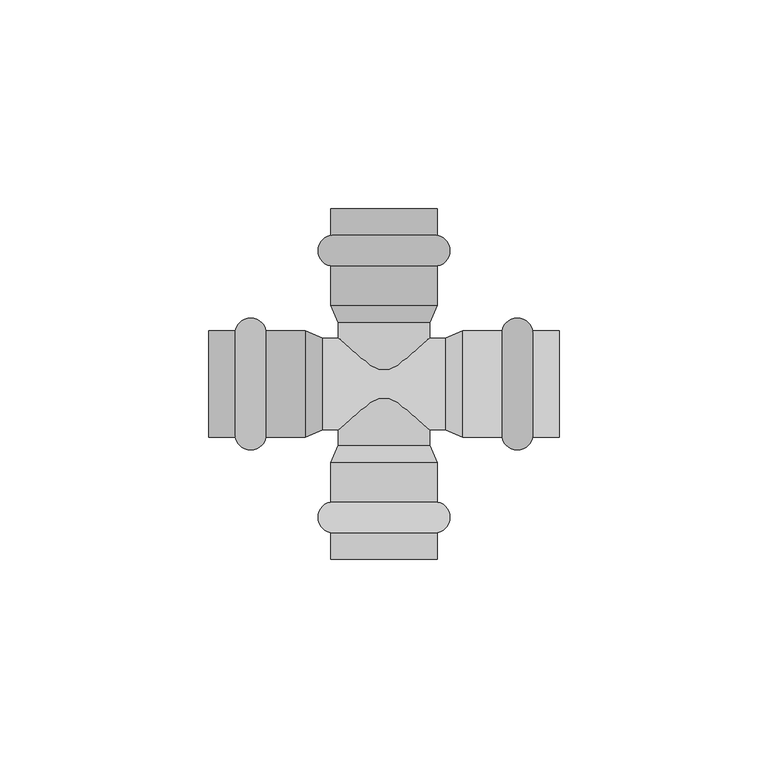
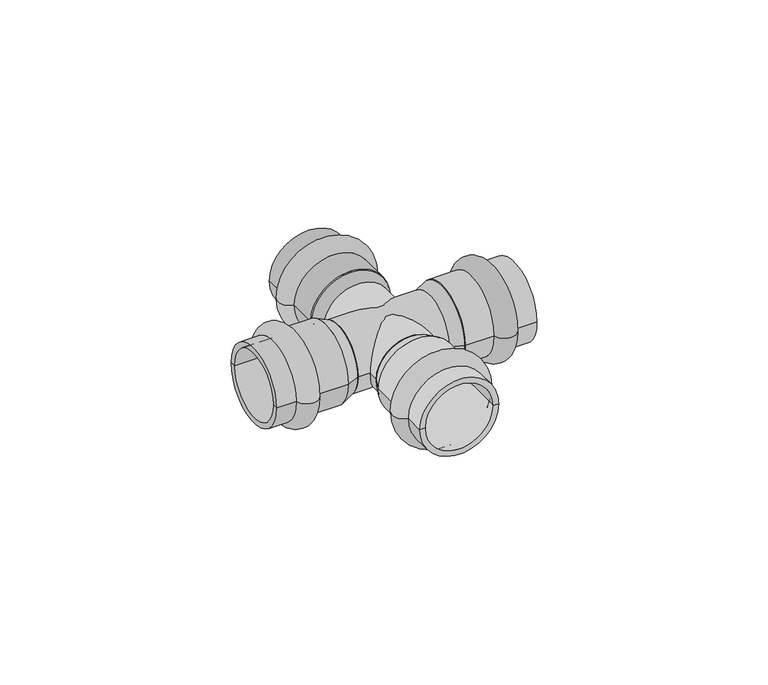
"""IFC4 building model written with IfcOpenShell, lengths in millimetres: pipe fitting geometry, VALTEC_VTi.941.I_Крестовина нержавеющая сталь : VTi.941.I."""

from ifc_helpers import new_model, si_unit, point, frame, origin, origin_2d, place, context, project, spatial, polyline, circle_curve, ellipse_curve, trimmed, segment, composite_curve, outline, extrude, source, transform, mapped, element, save
from ifc_brep_helpers import plane_surface, cylinder_surface, revolved_surface, advanced_brep


def pipe_fitting_8f5c6a91(model_context):
    return source(origin(), model_context, "Body", "SolidModel", [
        advanced_brep(
        [(12.8, -35.6242346, 0.0), (-12.8, -35.6242346, 0.0), (-12.8, -28.2757654, 0.0), (12.8, -28.2757654, 0.0), (12.8, -42.0, 0.0), (-12.8, -42.0, 0.0), (11.0, -42.0, 0.0), (-11.0, -42.0, 0.0), (11.0, -18.9, 0.0), (-11.0, -18.9, 0.0), (12.8, -18.9, 0.0), (-12.8, -18.9, 0.0)],
        [
            (0, 1, circle_curve(frame((0.0, -35.6242346, 0.0), z_axis=(0.0, 1.0, 0.0), x_axis=(-1.0, 0.0, 0.0)), 12.8)),
            (1, 2, circle_curve(frame((-12.05, -31.95, 0.0), z_axis=(0.0, 0.0, -1.0), x_axis=(0.0, 1.0, 0.0)), 3.75)),
            (2, 3, circle_curve(frame((0.0, -28.2757654, 0.0), z_axis=(0.0, -1.0, 0.0), x_axis=(-1.0, 0.0, 0.0)), 12.8)),
            (3, 0, circle_curve(frame((12.05, -31.95, 0.0), z_axis=(0.0, 0.0, -1.0), x_axis=(0.0, 1.0, 0.0)), 3.75)),
            (1, 0, circle_curve(frame((0.0, -35.6242346, 0.0), z_axis=(0.0, 1.0, 0.0), x_axis=(-1.0, 0.0, 0.0)), 12.8)),
            (3, 2, circle_curve(frame((0.0, -28.2757654, 0.0), z_axis=(0.0, -1.0, 0.0), x_axis=(-1.0, 0.0, 0.0)), 12.8)),
            (4, 5, circle_curve(frame((0.0, -42.0, 0.0), z_axis=(0.0, 1.0, 0.0), x_axis=(-1.0, 0.0, 0.0)), 12.8)),
            (5, 1),
            (0, 4),
            (5, 4, circle_curve(frame((0.0, -42.0, 0.0), z_axis=(0.0, 1.0, 0.0), x_axis=(-1.0, 0.0, 0.0)), 12.8)),
            (6, 7, circle_curve(frame((0.0, -42.0, 0.0), z_axis=(0.0, 1.0, 0.0), x_axis=(-1.0, 0.0, 0.0)), 11.0)),
            (7, 5),
            (4, 6),
            (7, 6, circle_curve(frame((0.0, -42.0, 0.0), z_axis=(0.0, 1.0, 0.0), x_axis=(-1.0, 0.0, 0.0)), 11.0)),
            (8, 9, circle_curve(frame((0.0, -18.9, 0.0), z_axis=(0.0, 1.0, 0.0), x_axis=(-1.0, 0.0, 0.0)), 11.0)),
            (9, 7),
            (6, 8),
            (9, 8, circle_curve(frame((0.0, -18.9, 0.0), z_axis=(0.0, 1.0, 0.0), x_axis=(-1.0, 0.0, 0.0)), 11.0)),
            (10, 11, circle_curve(frame((0.0, -18.9, 0.0), z_axis=(0.0, 1.0, 0.0), x_axis=(-1.0, 0.0, 0.0)), 12.8)),
            (11, 9),
            (8, 10),
            (11, 10, circle_curve(frame((0.0, -18.9, 0.0), z_axis=(0.0, 1.0, 0.0), x_axis=(-1.0, 0.0, 0.0)), 12.8)),
            (2, 11),
            (10, 3),
        ],
        [
            revolved_surface(trimmed(ellipse_curve(frame((-12.05, -31.95, 0.0), z_axis=(0.0, 0.0, 1.0), x_axis=(0.0, 1.0, 0.0)), 3.75, 3.75), [point((-12.8, -28.2757654, 0.0))], [point((-12.8, -35.6242346, 0.0))], True, "CARTESIAN"), (0.0, -45.5364426, 0.0), (0.0, -1.0, 0.0)),
            cylinder_surface(frame((0.0, -45.5364426, 0.0), z_axis=(0.0, -1.0, 0.0), x_axis=(-1.0, 0.0, 0.0)), 12.8),
            plane_surface(frame((0.0, -42.0, 0.0), z_axis=(0.0, -1.0, 0.0), x_axis=(-1.0, 0.0, 0.0))),
            revolved_surface(polyline([(-11.0, -42.0, 0.0), (-11.0, -18.9, 0.0)]), (0.0, -45.5364426, 0.0), (0.0, -1.0, 0.0)),
            plane_surface(frame((0.0, -18.9, 0.0), z_axis=(0.0, 1.0, 0.0), x_axis=(-1.0, 0.0, 0.0))),
        ],
        [
            (0, [[1, 2, 3, 4]]),
            (0, [[5, -4, 6, -2]]),
            (1, [[7, 8, -1, 9]]),
            (1, [[10, -9, -5, -8]]),
            (2, [[11, 12, -7, 13]]),
            (2, [[14, -13, -10, -12]]),
            (3, [[15, 16, -11, 17]]),
            (3, [[18, -17, -14, -16]]),
            (4, [[19, 20, -15, 21]]),
            (4, [[22, -21, -18, -20]]),
            (1, [[-3, 23, -19, 24]]),
            (1, [[-6, -24, -22, -23]]),
        ],
    ),
        advanced_brep(
        [(35.6242346, 12.8, 0.0), (35.6242346, -12.8, 0.0), (28.2757654, -12.8, 0.0), (28.2757654, 12.8, 0.0), (42.0, 12.8, 0.0), (42.0, -12.8, 0.0), (42.0, 11.0, 0.0), (42.0, -11.0, 0.0), (18.9, 11.0, 0.0), (18.9, -11.0, 0.0), (18.9, 12.8, 0.0), (18.9, -12.8, 0.0)],
        [
            (0, 1, circle_curve(frame((35.6242346, 0.0, 0.0), z_axis=(-1.0, 0.0, 0.0), x_axis=(0.0, -1.0, 0.0)), 12.8)),
            (1, 2, circle_curve(frame((31.95, -12.05, 0.0), z_axis=(0.0, 0.0, -1.0), x_axis=(-1.0, 0.0, 0.0)), 3.75)),
            (2, 3, circle_curve(frame((28.2757654, 0.0, 0.0), z_axis=(1.0, 0.0, 0.0), x_axis=(0.0, -1.0, 0.0)), 12.8)),
            (3, 0, circle_curve(frame((31.95, 12.05, 0.0), z_axis=(0.0, 0.0, -1.0), x_axis=(-1.0, 0.0, 0.0)), 3.75)),
            (1, 0, circle_curve(frame((35.6242346, 0.0, 0.0), z_axis=(-1.0, 0.0, 0.0), x_axis=(0.0, -1.0, 0.0)), 12.8)),
            (3, 2, circle_curve(frame((28.2757654, 0.0, 0.0), z_axis=(1.0, 0.0, 0.0), x_axis=(0.0, -1.0, 0.0)), 12.8)),
            (4, 5, circle_curve(frame((42.0, 0.0, 0.0), z_axis=(-1.0, 0.0, 0.0), x_axis=(0.0, -1.0, 0.0)), 12.8)),
            (5, 1),
            (0, 4),
            (5, 4, circle_curve(frame((42.0, 0.0, 0.0), z_axis=(-1.0, 0.0, 0.0), x_axis=(0.0, -1.0, 0.0)), 12.8)),
            (6, 7, circle_curve(frame((42.0, 0.0, 0.0), z_axis=(-1.0, 0.0, 0.0), x_axis=(0.0, -1.0, 0.0)), 11.0)),
            (7, 5),
            (4, 6),
            (7, 6, circle_curve(frame((42.0, 0.0, 0.0), z_axis=(-1.0, 0.0, 0.0), x_axis=(0.0, -1.0, 0.0)), 11.0)),
            (8, 9, circle_curve(frame((18.9, 0.0, 0.0), z_axis=(-1.0, 0.0, 0.0), x_axis=(0.0, -1.0, 0.0)), 11.0)),
            (9, 7),
            (6, 8),
            (9, 8, circle_curve(frame((18.9, 0.0, 0.0), z_axis=(-1.0, 0.0, 0.0), x_axis=(0.0, -1.0, 0.0)), 11.0)),
            (10, 11, circle_curve(frame((18.9, 0.0, 0.0), z_axis=(-1.0, 0.0, 0.0), x_axis=(0.0, -1.0, 0.0)), 12.8)),
            (11, 9),
            (8, 10),
            (11, 10, circle_curve(frame((18.9, 0.0, 0.0), z_axis=(-1.0, 0.0, 0.0), x_axis=(0.0, -1.0, 0.0)), 12.8)),
            (2, 11),
            (10, 3),
        ],
        [
            revolved_surface(trimmed(ellipse_curve(frame((31.95, -12.05, 0.0), z_axis=(0.0, 0.0, 1.0), x_axis=(-1.0, 0.0, 0.0)), 3.75, 3.75), [point((28.2757654, -12.8, 0.0))], [point((35.6242346, -12.8, 0.0))], True, "CARTESIAN"), (45.5364426, 0.0, 0.0), (1.0, 0.0, 0.0)),
            cylinder_surface(frame((45.5364426, 0.0, 0.0), z_axis=(1.0, 0.0, 0.0), x_axis=(0.0, -1.0, 0.0)), 12.8),
            plane_surface(frame((42.0, 0.0, 0.0), z_axis=(1.0, 0.0, 0.0), x_axis=(0.0, -1.0, 0.0))),
            revolved_surface(polyline([(42.0, -11.0, 0.0), (18.9, -11.0, 0.0)]), (45.5364426, 0.0, 0.0), (1.0, 0.0, 0.0)),
            plane_surface(frame((18.9, 0.0, 0.0), z_axis=(-1.0, 0.0, 0.0), x_axis=(0.0, -1.0, 0.0))),
        ],
        [
            (0, [[1, 2, 3, 4]]),
            (0, [[5, -4, 6, -2]]),
            (1, [[7, 8, -1, 9]]),
            (1, [[10, -9, -5, -8]]),
            (2, [[11, 12, -7, 13]]),
            (2, [[14, -13, -10, -12]]),
            (3, [[15, 16, -11, 17]]),
            (3, [[18, -17, -14, -16]]),
            (4, [[19, 20, -15, 21]]),
            (4, [[22, -21, -18, -20]]),
            (1, [[-3, 23, -19, 24]]),
            (1, [[-6, -24, -22, -23]]),
        ],
    ),
        advanced_brep(
        [(-35.6242346, -12.8, 0.0), (-35.6242346, 12.8, 0.0), (-28.2757654, 12.8, 0.0), (-28.2757654, -12.8, 0.0), (-42.0, -12.8, 0.0), (-42.0, 12.8, 0.0), (-42.0, -11.0, 0.0), (-42.0, 11.0, 0.0), (-18.9, -11.0, 0.0), (-18.9, 11.0, 0.0), (-18.9, -12.8, 0.0), (-18.9, 12.8, 0.0)],
        [
            (0, 1, circle_curve(frame((-35.6242346, 0.0, 0.0), z_axis=(1.0, 0.0, 0.0), x_axis=(0.0, 1.0, 0.0)), 12.8)),
            (1, 2, circle_curve(frame((-31.95, 12.05, 0.0), z_axis=(0.0, 0.0, -1.0), x_axis=(1.0, 0.0, 0.0)), 3.75)),
            (2, 3, circle_curve(frame((-28.2757654, 0.0, 0.0), z_axis=(-1.0, 0.0, 0.0), x_axis=(0.0, 1.0, 0.0)), 12.8)),
            (3, 0, circle_curve(frame((-31.95, -12.05, 0.0), z_axis=(0.0, 0.0, -1.0), x_axis=(1.0, 0.0, 0.0)), 3.75)),
            (1, 0, circle_curve(frame((-35.6242346, 0.0, 0.0), z_axis=(1.0, 0.0, 0.0), x_axis=(0.0, 1.0, 0.0)), 12.8)),
            (3, 2, circle_curve(frame((-28.2757654, 0.0, 0.0), z_axis=(-1.0, 0.0, 0.0), x_axis=(0.0, 1.0, 0.0)), 12.8)),
            (4, 5, circle_curve(frame((-42.0, 0.0, 0.0), z_axis=(1.0, 0.0, 0.0), x_axis=(0.0, 1.0, 0.0)), 12.8)),
            (5, 1),
            (0, 4),
            (5, 4, circle_curve(frame((-42.0, 0.0, 0.0), z_axis=(1.0, 0.0, 0.0), x_axis=(0.0, 1.0, 0.0)), 12.8)),
            (6, 7, circle_curve(frame((-42.0, 0.0, 0.0), z_axis=(1.0, 0.0, 0.0), x_axis=(0.0, 1.0, 0.0)), 11.0)),
            (7, 5),
            (4, 6),
            (7, 6, circle_curve(frame((-42.0, 0.0, 0.0), z_axis=(1.0, 0.0, 0.0), x_axis=(0.0, 1.0, 0.0)), 11.0)),
            (8, 9, circle_curve(frame((-18.9, 0.0, 0.0), z_axis=(1.0, 0.0, 0.0), x_axis=(0.0, 1.0, 0.0)), 11.0)),
            (9, 7),
            (6, 8),
            (9, 8, circle_curve(frame((-18.9, 0.0, 0.0), z_axis=(1.0, 0.0, 0.0), x_axis=(0.0, 1.0, 0.0)), 11.0)),
            (10, 11, circle_curve(frame((-18.9, 0.0, 0.0), z_axis=(1.0, 0.0, 0.0), x_axis=(0.0, 1.0, 0.0)), 12.8)),
            (11, 9),
            (8, 10),
            (11, 10, circle_curve(frame((-18.9, 0.0, 0.0), z_axis=(1.0, 0.0, 0.0), x_axis=(0.0, 1.0, 0.0)), 12.8)),
            (2, 11),
            (10, 3),
        ],
        [
            revolved_surface(trimmed(ellipse_curve(frame((-31.95, 12.05, 0.0), z_axis=(0.0, 0.0, 1.0), x_axis=(1.0, 0.0, 0.0)), 3.75, 3.75), [point((-28.2757654, 12.8, 0.0))], [point((-35.6242346, 12.8, 0.0))], True, "CARTESIAN"), (-45.5364426, 0.0, 0.0), (-1.0, 0.0, 0.0)),
            cylinder_surface(frame((-45.5364426, 0.0, 0.0), z_axis=(-1.0, 0.0, 0.0), x_axis=(0.0, 1.0, 0.0)), 12.8),
            plane_surface(frame((-42.0, 0.0, 0.0), z_axis=(-1.0, 0.0, 0.0), x_axis=(0.0, 1.0, 0.0))),
            revolved_surface(polyline([(-42.0, 11.0, 0.0), (-18.9, 11.0, 0.0)]), (-45.5364426, 0.0, 0.0), (-1.0, 0.0, 0.0)),
            plane_surface(frame((-18.9, 0.0, 0.0), z_axis=(1.0, 0.0, 0.0), x_axis=(0.0, 1.0, 0.0))),
        ],
        [
            (0, [[1, 2, 3, 4]]),
            (0, [[5, -4, 6, -2]]),
            (1, [[7, 8, -1, 9]]),
            (1, [[10, -9, -5, -8]]),
            (2, [[11, 12, -7, 13]]),
            (2, [[14, -13, -10, -12]]),
            (3, [[15, 16, -11, 17]]),
            (3, [[18, -17, -14, -16]]),
            (4, [[19, 20, -15, 21]]),
            (4, [[22, -21, -18, -20]]),
            (1, [[-3, 23, -19, 24]]),
            (1, [[-6, -24, -22, -23]]),
        ],
    ),
        advanced_brep(
        [(-12.8, 35.6242346, 0.0), (12.8, 35.6242346, 0.0), (12.8, 28.2757654, 0.0), (-12.8, 28.2757654, 0.0), (-12.8, 42.0, 0.0), (12.8, 42.0, 0.0), (-11.0, 42.0, 0.0), (11.0, 42.0, 0.0), (-11.0, 18.9, 0.0), (11.0, 18.9, 0.0), (-12.8, 18.9, 0.0), (12.8, 18.9, 0.0)],
        [
            (0, 1, circle_curve(frame((0.0, 35.6242346, 0.0), z_axis=(0.0, -1.0, 0.0), x_axis=(1.0, 0.0, 0.0)), 12.8)),
            (1, 2, circle_curve(frame((12.05, 31.95, 0.0), z_axis=(0.0, 0.0, -1.0), x_axis=(0.0, -1.0, 0.0)), 3.75)),
            (2, 3, circle_curve(frame((0.0, 28.2757654, 0.0), z_axis=(0.0, 1.0, 0.0), x_axis=(1.0, 0.0, 0.0)), 12.8)),
            (3, 0, circle_curve(frame((-12.05, 31.95, 0.0), z_axis=(0.0, 0.0, -1.0), x_axis=(0.0, -1.0, 0.0)), 3.75)),
            (1, 0, circle_curve(frame((0.0, 35.6242346, 0.0), z_axis=(0.0, -1.0, 0.0), x_axis=(1.0, 0.0, 0.0)), 12.8)),
            (3, 2, circle_curve(frame((0.0, 28.2757654, 0.0), z_axis=(0.0, 1.0, 0.0), x_axis=(1.0, 0.0, 0.0)), 12.8)),
            (4, 5, circle_curve(frame((0.0, 42.0, 0.0), z_axis=(0.0, -1.0, 0.0), x_axis=(1.0, 0.0, 0.0)), 12.8)),
            (5, 1),
            (0, 4),
            (5, 4, circle_curve(frame((0.0, 42.0, 0.0), z_axis=(0.0, -1.0, 0.0), x_axis=(1.0, 0.0, 0.0)), 12.8)),
            (6, 7, circle_curve(frame((0.0, 42.0, 0.0), z_axis=(0.0, -1.0, 0.0), x_axis=(1.0, 0.0, 0.0)), 11.0)),
            (7, 5),
            (4, 6),
            (7, 6, circle_curve(frame((0.0, 42.0, 0.0), z_axis=(0.0, -1.0, 0.0), x_axis=(1.0, 0.0, 0.0)), 11.0)),
            (8, 9, circle_curve(frame((0.0, 18.9, 0.0), z_axis=(0.0, -1.0, 0.0), x_axis=(1.0, 0.0, 0.0)), 11.0)),
            (9, 7),
            (6, 8),
            (9, 8, circle_curve(frame((0.0, 18.9, 0.0), z_axis=(0.0, -1.0, 0.0), x_axis=(1.0, 0.0, 0.0)), 11.0)),
            (10, 11, circle_curve(frame((0.0, 18.9, 0.0), z_axis=(0.0, -1.0, 0.0), x_axis=(1.0, 0.0, 0.0)), 12.8)),
            (11, 9),
            (8, 10),
            (11, 10, circle_curve(frame((0.0, 18.9, 0.0), z_axis=(0.0, -1.0, 0.0), x_axis=(1.0, 0.0, 0.0)), 12.8)),
            (2, 11),
            (10, 3),
        ],
        [
            revolved_surface(trimmed(ellipse_curve(frame((12.05, 31.95, 0.0), z_axis=(0.0, 0.0, 1.0), x_axis=(0.0, -1.0, 0.0)), 3.75, 3.75), [point((12.8, 28.2757654, 0.0))], [point((12.8, 35.6242346, 0.0))], True, "CARTESIAN"), (0.0, 45.5364426, 0.0), (0.0, 1.0, 0.0)),
            cylinder_surface(frame((0.0, 45.5364426, 0.0), z_axis=(0.0, 1.0, 0.0), x_axis=(1.0, 0.0, 0.0)), 12.8),
            plane_surface(frame((0.0, 42.0, 0.0), z_axis=(0.0, 1.0, 0.0), x_axis=(1.0, 0.0, 0.0))),
            revolved_surface(polyline([(11.0, 42.0, 0.0), (11.0, 18.9, 0.0)]), (0.0, 45.5364426, 0.0), (0.0, 1.0, 0.0)),
            plane_surface(frame((0.0, 18.9, 0.0), z_axis=(0.0, -1.0, 0.0), x_axis=(1.0, 0.0, 0.0))),
        ],
        [
            (0, [[1, 2, 3, 4]]),
            (0, [[5, -4, 6, -2]]),
            (1, [[7, 8, -1, 9]]),
            (1, [[10, -9, -5, -8]]),
            (2, [[11, 12, -7, 13]]),
            (2, [[14, -13, -10, -12]]),
            (3, [[15, 16, -11, 17]]),
            (3, [[18, -17, -14, -16]]),
            (4, [[19, 20, -15, 21]]),
            (4, [[22, -21, -18, -20]]),
            (1, [[-3, 23, -19, 24]]),
            (1, [[-6, -24, -22, -23]]),
        ],
    ),
        extrude(outline(composite_curve([segment(trimmed(circle_curve(origin_2d(), 11.0), [point((-11.0, 0.0))], [point((11.0, 0.0))], False, "CARTESIAN"), True, "CONTINUOUS"), segment(trimmed(circle_curve(origin_2d(), 11.0), [point((11.0, 0.0))], [point((-11.0, 0.0))], False, "CARTESIAN"), True, "CONTINUOUS")], self_intersect=False)), frame((-14.7, 0.0, 0.0), z_axis=(1.0, 0.0, 0.0), x_axis=(0.0, 1.0, 0.0)), (0.0, 0.0, 1.0), 29.4),
        extrude(outline(composite_curve([segment(trimmed(circle_curve(origin_2d(), 11.0), [point((0.0, -11.0))], [point((0.0, 11.0))], False, "CARTESIAN"), True, "CONTINUOUS"), segment(trimmed(circle_curve(origin_2d(), 11.0), [point((0.0, 11.0))], [point((0.0, -11.0))], False, "CARTESIAN"), True, "CONTINUOUS")], self_intersect=False)), frame((0.0, -14.7, 0.0), z_axis=(0.0, 1.0, 0.0), x_axis=(0.0, 0.0, 1.0)), (0.0, 0.0, 1.0), 29.4),
        advanced_brep(
        [(-18.9, -12.8, 0.0), (-18.9, 12.8, 0.0), (-14.7, -11.0, 0.0), (-14.7, 11.0, 0.0)],
        [
            (0, 1, circle_curve(frame((-18.9, 0.0, 0.0), z_axis=(-1.0, 0.0, 0.0), x_axis=(0.0, -1.0, 0.0)), 12.8)),
            (1, 0, circle_curve(frame((-18.9, 0.0, 0.0), z_axis=(-1.0, 0.0, 0.0), x_axis=(0.0, 1.0, 0.0)), 12.8)),
            (2, 3, circle_curve(frame((-14.7, 0.0, 0.0), z_axis=(1.0, 0.0, 0.0), x_axis=(0.0, 1.0, 0.0)), 11.0)),
            (3, 2, circle_curve(frame((-14.7, 0.0, 0.0), z_axis=(1.0, 0.0, 0.0), x_axis=(0.0, -1.0, 0.0)), 11.0)),
            (2, 0),
            (1, 3),
        ],
        [
            plane_surface(frame((-18.9, 0.0, 0.0), z_axis=(-1.0, 0.0, 0.0), x_axis=(0.0, 0.0, 1.0))),
            plane_surface(frame((-14.7, 0.0, 0.0), z_axis=(1.0, 0.0, 0.0), x_axis=(0.0, 0.0, 1.0))),
            revolved_surface(polyline([(-14.700000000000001, -11.000000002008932, 0.0), (-18.9, -12.8, 0.0)]), (10.9666667, 0.0, 0.0), (-1.0, 0.0, 0.0)),
            revolved_surface(polyline([(-14.700000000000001, 11.000000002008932, 0.0), (-18.9, 12.8, 0.0)]), (10.9666667, 0.0, 0.0), (-1.0, 0.0, 0.0)),
        ],
        [
            (0, [[1, 2]]),
            (1, [[3, 4]]),
            (2, [[-3, 5, -2, 6]]),
            (3, [[-4, -6, -1, -5]]),
        ],
    ),
        advanced_brep(
        [(18.9, -12.8, 0.0), (18.9, 12.8, 0.0), (14.7, -11.0, 0.0), (14.7, 11.0, 0.0)],
        [
            (0, 1, circle_curve(frame((18.9, 0.0, 0.0), z_axis=(1.0, 0.0, 0.0), x_axis=(0.0, -1.0, 0.0)), 12.8)),
            (1, 0, circle_curve(frame((18.9, 0.0, 0.0), z_axis=(1.0, 0.0, 0.0), x_axis=(0.0, 1.0, 0.0)), 12.8)),
            (2, 3, circle_curve(frame((14.7, 0.0, 0.0), z_axis=(-1.0, 0.0, 0.0), x_axis=(0.0, 1.0, 0.0)), 11.0)),
            (3, 2, circle_curve(frame((14.7, 0.0, 0.0), z_axis=(-1.0, 0.0, 0.0), x_axis=(0.0, -1.0, 0.0)), 11.0)),
            (3, 1),
            (0, 2),
        ],
        [
            plane_surface(frame((18.9, 0.0, 0.0), z_axis=(1.0, 0.0, 0.0), x_axis=(0.0, 0.0, -1.0))),
            plane_surface(frame((14.7, 0.0, 0.0), z_axis=(-1.0, 0.0, 0.0), x_axis=(0.0, 0.0, -1.0))),
            revolved_surface(polyline([(14.700000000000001, 11.000000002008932, 0.0), (18.9, 12.8, 0.0)]), (-10.9666667, 0.0, 0.0), (1.0, 0.0, 0.0)),
            revolved_surface(polyline([(14.700000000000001, -11.000000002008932, 0.0), (18.9, -12.8, 0.0)]), (-10.9666667, 0.0, 0.0), (1.0, 0.0, 0.0)),
        ],
        [
            (0, [[1, 2]]),
            (1, [[3, 4]]),
            (2, [[-4, 5, -1, 6]]),
            (3, [[-3, -6, -2, -5]]),
        ],
    ),
        advanced_brep(
        [(-12.8, -18.9, 0.0), (12.8, -18.9, 0.0), (-11.0, -14.7, 0.0), (11.0, -14.7, 0.0)],
        [
            (0, 1, circle_curve(frame((0.0, -18.9, 0.0), z_axis=(0.0, -1.0, 0.0), x_axis=(-1.0, 0.0, 0.0)), 12.8)),
            (1, 0, circle_curve(frame((0.0, -18.9, 0.0), z_axis=(0.0, -1.0, 0.0), x_axis=(1.0, 0.0, 0.0)), 12.8)),
            (2, 3, circle_curve(frame((0.0, -14.7, 0.0), z_axis=(0.0, 1.0, 0.0), x_axis=(1.0, 0.0, 0.0)), 11.0)),
            (3, 2, circle_curve(frame((0.0, -14.7, 0.0), z_axis=(0.0, 1.0, 0.0), x_axis=(-1.0, 0.0, 0.0)), 11.0)),
            (3, 1),
            (0, 2),
        ],
        [
            plane_surface(frame((0.0, -18.9, 0.0), z_axis=(0.0, -1.0, 0.0), x_axis=(0.0, 0.0, 1.0))),
            plane_surface(frame((0.0, -14.7, 0.0), z_axis=(0.0, 1.0, 0.0), x_axis=(0.0, 0.0, 1.0))),
            revolved_surface(polyline([(11.000000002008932, -14.700000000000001, 0.0), (12.8, -18.9, 0.0)]), (0.0, 10.9666667, 0.0), (0.0, -1.0, 0.0)),
            revolved_surface(polyline([(-11.000000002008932, -14.700000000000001, 0.0), (-12.8, -18.9, 0.0)]), (0.0, 10.9666667, 0.0), (0.0, -1.0, 0.0)),
        ],
        [
            (0, [[1, 2]]),
            (1, [[3, 4]]),
            (2, [[-4, 5, -1, 6]]),
            (3, [[-3, -6, -2, -5]]),
        ],
    ),
        advanced_brep(
        [(-12.8, 18.9, 0.0), (12.8, 18.9, 0.0), (-11.0, 14.7, 0.0), (11.0, 14.7, 0.0)],
        [
            (0, 1, circle_curve(frame((0.0, 18.9, 0.0), z_axis=(0.0, 1.0, 0.0), x_axis=(-1.0, 0.0, 0.0)), 12.8)),
            (1, 0, circle_curve(frame((0.0, 18.9, 0.0), z_axis=(0.0, 1.0, 0.0), x_axis=(1.0, 0.0, 0.0)), 12.8)),
            (2, 3, circle_curve(frame((0.0, 14.7, 0.0), z_axis=(0.0, -1.0, 0.0), x_axis=(1.0, 0.0, 0.0)), 11.0)),
            (3, 2, circle_curve(frame((0.0, 14.7, 0.0), z_axis=(0.0, -1.0, 0.0), x_axis=(-1.0, 0.0, 0.0)), 11.0)),
            (2, 0),
            (1, 3),
        ],
        [
            plane_surface(frame((0.0, 18.9, 0.0), z_axis=(0.0, 1.0, 0.0), x_axis=(0.0, 0.0, -1.0))),
            plane_surface(frame((0.0, 14.7, 0.0), z_axis=(0.0, -1.0, 0.0), x_axis=(0.0, 0.0, -1.0))),
            revolved_surface(polyline([(-11.000000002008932, 14.700000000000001, 0.0), (-12.8, 18.9, 0.0)]), (0.0, -10.9666667, 0.0), (0.0, 1.0, 0.0)),
            revolved_surface(polyline([(11.000000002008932, 14.700000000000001, 0.0), (12.8, 18.9, 0.0)]), (0.0, -10.9666667, 0.0), (0.0, 1.0, 0.0)),
        ],
        [
            (0, [[1, 2]]),
            (1, [[3, 4]]),
            (2, [[-3, 5, -2, 6]]),
            (3, [[-4, -6, -1, -5]]),
        ],
    ),
    ])


if __name__ == "__main__":
    model = new_model("IFC4")
    model_context = context("Model", 3, world=origin())
    ifc_project = project(units=[si_unit("LENGTHUNIT", "METRE", prefix="MILLI")], contexts=[model_context])
    site = spatial("IfcSite", under=ifc_project)
    building = spatial("IfcBuilding", under=site)
    placement = place(None, origin())
    pipe_fitting_shape = pipe_fitting_8f5c6a91(model_context)
    element("IfcPipeFitting", 1, ObjectType="VALTEC_VTi.941.I_Крестовина нержавеющая сталь : VTi.941.I", at=placement, inside=building, context=model_context, shape_type="MappedRepresentation", body=[
        mapped(pipe_fitting_shape, transform((0.0, 0.0, 0.0), x_axis=(1.0, 0.0, 0.0), y_axis=(0.0, 1.0, 0.0), z_axis=(0.0, 0.0, 1.0))),
    ])
    save(model, "model.ifc")
